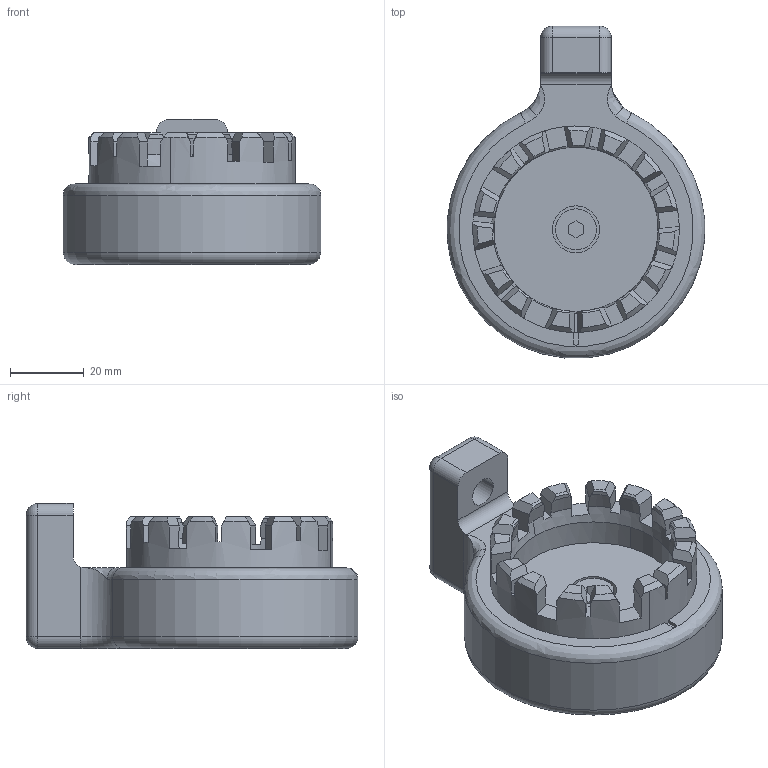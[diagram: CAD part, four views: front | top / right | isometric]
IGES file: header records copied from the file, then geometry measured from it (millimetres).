
Global section: file name: No Iges File Name specified; native system: Autodesk Inventor 2010; preprocessor: AutoDesk Inventor Iges Exporter R2010; author: mlampen; date: 20170420.105201; units: inch
Bounding box: 69.61 x 89.78 x 39.24 mm (x, y, z)
Volume: 98393.1 mm3; surface area: 30025.5 mm2
Topology: 2 solids, 2 shells, 1043 faces, 2932 edges, 1945 vertices
Faces by surface type: plane 924, revolution 70, cylinder 22, cone 15, bspline 5, sphere 4, torus 3
